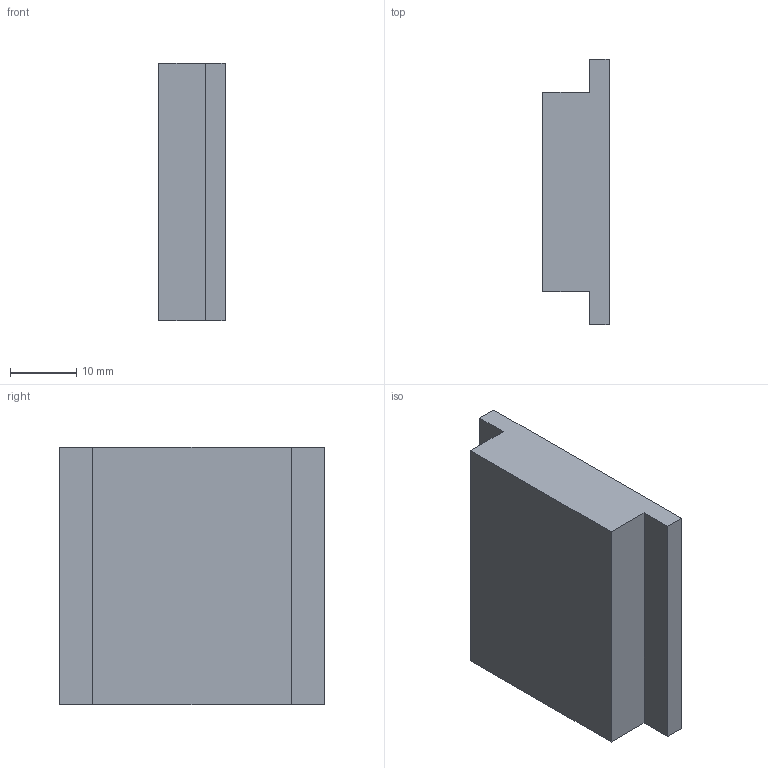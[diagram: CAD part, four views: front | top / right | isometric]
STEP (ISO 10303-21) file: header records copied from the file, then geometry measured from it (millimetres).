
FILE_DESCRIPTION(('CATIA V5 STEP Exchange'),'2;1');
FILE_NAME('E:\够快云库\系统集成开发部\1.部门成员\姚明阳\工装\3D数模\GZ07.02_V2.stp','2020-10-19T01:46:36+00:00',('none'),('none'),'CATIA Version 5 Release 21 GA (IN-10)','CATIA V5 STEP AP214','none');
FILE_SCHEMA(('AUTOMOTIVE_DESIGN { 1 0 10303 214 1 1 1 1 }'));
Length unit declared in the file: millimetre
Products named in the file (1): GZ07.02_V2
Bounding box: 10 x 40 x 38.8 mm (x, y, z)
Volume: 12662.6 mm3; surface area: 4728.5 mm2
Topology: 1 solids, 1 shells, 16 faces, 36 edges, 24 vertices
Faces by surface type: plane 12, cylinder 4
Entity records: 442 total; most frequent: CARTESIAN_POINT 73, ORIENTED_EDGE 72, DIRECTION 60, EDGE_CURVE 36, VECTOR 28, LINE 28, VERTEX_POINT 24, AXIS2_PLACEMENT_3D 21
